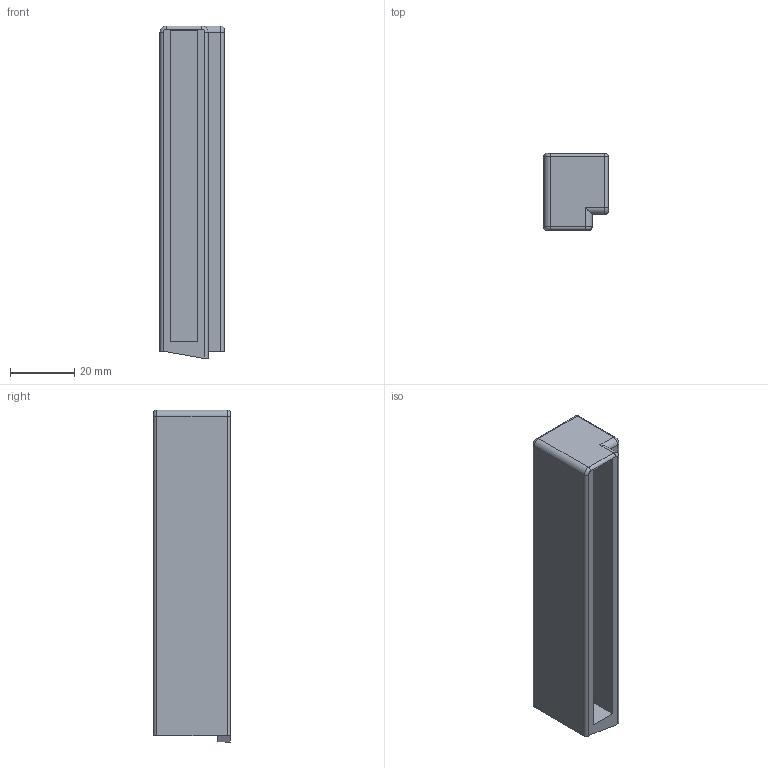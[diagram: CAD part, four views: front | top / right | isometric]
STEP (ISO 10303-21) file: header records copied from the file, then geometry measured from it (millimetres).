
FILE_DESCRIPTION (( 'STEP AP214' ), '1' );
FILE_NAME ('Abdeckkappe_Deluxe_hinten_links_STRW_Crystal .step', '2010-10-27T12:15:17', ( 'grass' ), ( '' ), 'SwSTEP 2.0', 'SolidWorks 2010', '' );
FILE_SCHEMA (( 'AUTOMOTIVE_DESIGN' ));
Length unit declared in the file: millimetre
Products named in the file (1): Abdeckkappe_Deluxe_hinten_links_STRW_Crystal 
Bounding box: 20 x 24 x 103.5 mm (x, y, z)
Volume: 26403 mm3; surface area: 13555.3 mm2
Topology: 1 solids, 1 shells, 36 faces, 88 edges, 54 vertices
Faces by surface type: plane 20, cylinder 11, torus 4, sphere 1
Entity records: 1073 total; most frequent: DIRECTION 184, CARTESIAN_POINT 181, ORIENTED_EDGE 174, EDGE_CURVE 87, VECTOR 62, LINE 62, AXIS2_PLACEMENT_3D 61, VERTEX_POINT 54
